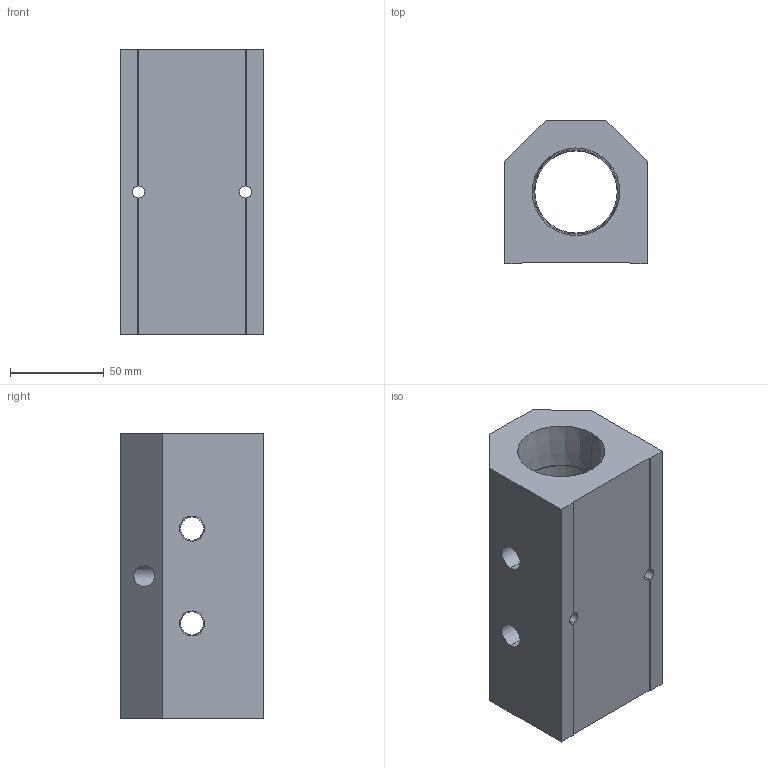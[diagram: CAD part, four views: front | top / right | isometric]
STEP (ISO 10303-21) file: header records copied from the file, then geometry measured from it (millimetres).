
FILE_DESCRIPTION (( 'STEP AP214' ), '1' );
FILE_NAME ('ALM2ACE-N4N24-152R.step', '2022-02-07T07:39:33', ( '' ), ( '' ), 'SwSTEP 2.0', 'SolidWorks 2020', '' );
FILE_SCHEMA (( 'AUTOMOTIVE_DESIGN' ));
Length unit declared in the file: millimetre
Products named in the file (1): ALM2ACE-N4N24-152R
Bounding box: 76.2 x 76.2 x 152 mm (x, y, z)
Volume: 547544.3 mm3; surface area: 76218.6 mm2
Topology: 1 solids, 1 shells, 300 faces, 801 edges, 530 vertices
Faces by surface type: plane 229, bspline 45, cone 16, cylinder 10
Entity records: 15857 total; most frequent: CARTESIAN_POINT 5691, ORIENTED_EDGE 1602, DIRECTION 1239, EDGE_CURVE 801, VECTOR 655, LINE 655, VERTEX_POINT 530, EDGE_LOOP 345
